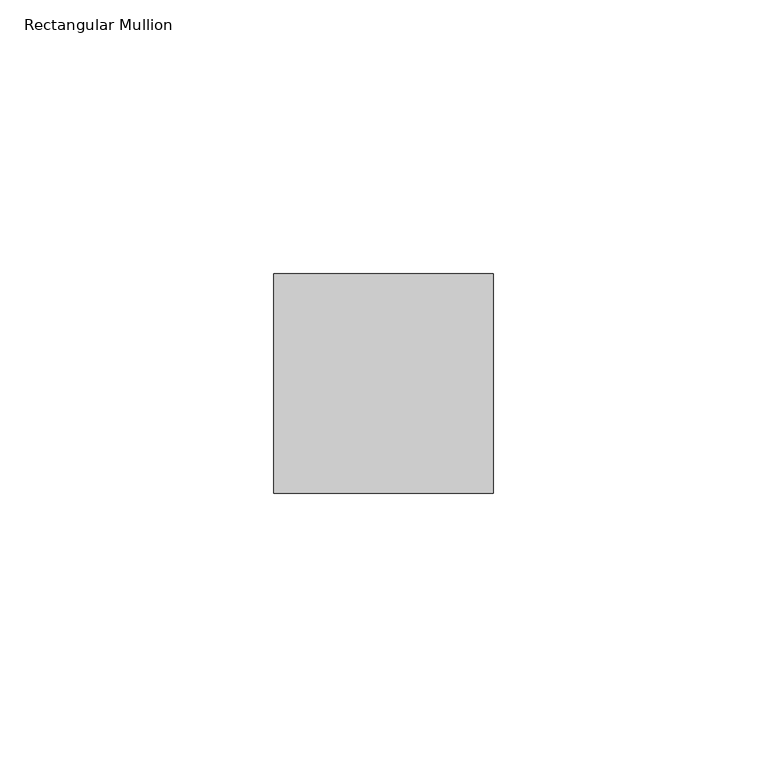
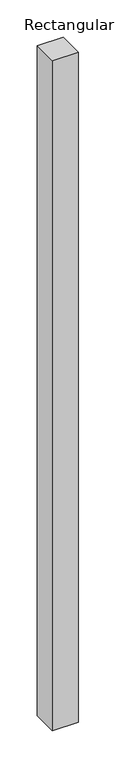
"""IFC4 building model written with IfcOpenShell, lengths in millimetres: member geometry, Rectangular Mullion : Danpal_NM_Middle-V-Mullion."""

from ifc_helpers import new_model, si_unit, frame, origin, place, context, project, spatial, polyline, outline, extrude, source, transform, mapped, element, save


def rectangular_mullion_0cc837b9(model_context):
    return source(origin(), model_context, "Body", "SweptSolid", [
        extrude(outline(polyline([(0.0, 13.2378279), (-40.0, 13.2378279), (-40.0, 53.2378279), (0.0, 53.2378279), (0.0, 13.2378279)])), frame((0.0, 0.0, -1093.1107708), z_axis=(0.0, 0.0, 1.0), x_axis=(1.0, 0.0, 0.0)), (0.0, 0.0, 1.0), 1093.1107708),
    ])


if __name__ == "__main__":
    model = new_model("IFC4")
    model_context = context("Model", 3, world=origin())
    ifc_project = project(units=[si_unit("LENGTHUNIT", "METRE", prefix="MILLI")], contexts=[model_context])
    site = spatial("IfcSite", under=ifc_project)
    building = spatial("IfcBuilding", under=site)
    placement = place(None, origin())
    rectangular_mullion_shape = rectangular_mullion_0cc837b9(model_context)
    element("IfcMember", 1, ObjectType="Rectangular Mullion : Danpal_NM_Middle-V-Mullion", at=placement, inside=building, context=model_context, shape_type="MappedRepresentation", body=[
        mapped(rectangular_mullion_shape, transform((0.0, 0.0, 0.0), x_axis=(1.0, 0.0, 0.0), y_axis=(0.0, 1.0, 0.0), z_axis=(0.0, 0.0, 1.0))),
    ])
    save(model, "model.ifc")
